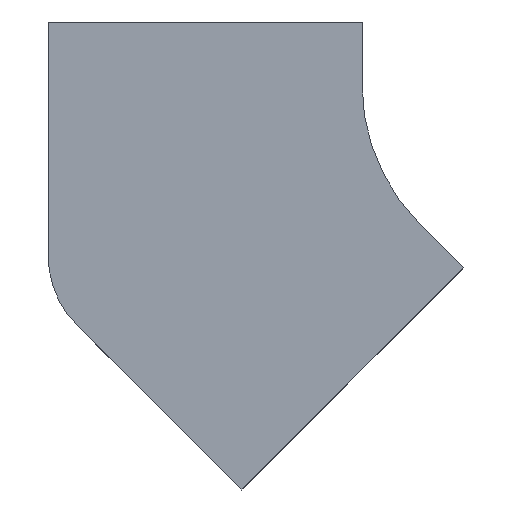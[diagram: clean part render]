
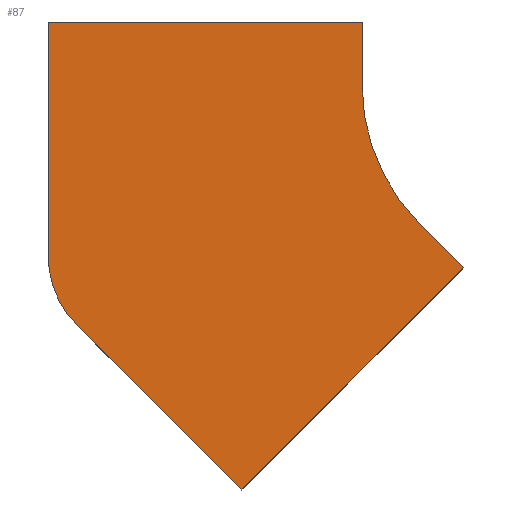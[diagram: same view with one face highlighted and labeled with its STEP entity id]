
A CAD part, front view. The second image highlights one B-rep face of the part: STEP entity #87.
In plain terms, the highlighted planar face has unit normal (0, -1, 0).
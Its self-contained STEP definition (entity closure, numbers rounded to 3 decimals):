
#3 = ORIENTED_EDGE ( 'NONE', *, *, #327, .F. ) ;
#14 = CIRCLE ( 'NONE', #206, 125. ) ;
#21 = VECTOR ( 'NONE', #1268, 1000. ) ;
#87 = ADVANCED_FACE ( 'NONE', ( #1157 ), #1180, .T. ) ;
#135 = LINE ( 'NONE', #1525, #1447 ) ;
#200 = CARTESIAN_POINT ( 'NONE',  ( -125., 0., 40. ) ) ;
#206 = AXIS2_PLACEMENT_3D ( 'NONE', #1585, #565, #1577 ) ;
#219 = CARTESIAN_POINT ( 'NONE',  ( -125., 0., 40. ) ) ;
#225 = AXIS2_PLACEMENT_3D ( 'NONE', #268, #511, #923 ) ;
#260 = VECTOR ( 'NONE', #436, 1000. ) ;
#264 = CARTESIAN_POINT ( 'NONE',  ( -325., 0., 40. ) ) ;
#268 = CARTESIAN_POINT ( 'NONE',  ( 0., 0., 0. ) ) ;
#304 = CARTESIAN_POINT ( 'NONE',  ( -60.104, 0., -116.673 ) ) ;
#318 = DIRECTION ( 'NONE',  ( -0.707, 0., -0.707 ) ) ;
#327 = EDGE_CURVE ( 'NONE', #631, #1071, #1112, .T. ) ;
#330 = VERTEX_POINT ( 'NONE', #264 ) ;
#351 = DIRECTION ( 'NONE',  ( 0., 0., -1. ) ) ;
#380 = ORIENTED_EDGE ( 'NONE', *, *, #1490, .F. ) ;
#386 = CARTESIAN_POINT ( 'NONE',  ( -88.388, 0., -88.388 ) ) ;
#389 = EDGE_LOOP ( 'NONE', ( #604, #1182, #3, #905, #1174, #1600, #1234, #380 ) ) ;
#391 = DIRECTION ( 'NONE',  ( 0., 0., 1. ) ) ;
#436 = DIRECTION ( 'NONE',  ( 1., 0., 0. ) ) ;
#479 = VECTOR ( 'NONE', #318, 1000. ) ;
#508 = DIRECTION ( 'NONE',  ( 0., 1., 0. ) ) ;
#511 = DIRECTION ( 'NONE',  ( 0., -1., 0. ) ) ;
#565 = DIRECTION ( 'NONE',  ( 0., -1., 0. ) ) ;
#590 = VECTOR ( 'NONE', #1090, 1000. ) ;
#596 = LINE ( 'NONE', #859, #21 ) ;
#604 = ORIENTED_EDGE ( 'NONE', *, *, #1582, .F. ) ;
#631 = VERTEX_POINT ( 'NONE', #1196 ) ;
#698 = CARTESIAN_POINT ( 'NONE',  ( -201.525, 0., -258.094 ) ) ;
#713 = EDGE_CURVE ( 'NONE', #1226, #1380, #1338, .T. ) ;
#726 = LINE ( 'NONE', #1593, #260 ) ;
#733 = AXIS2_PLACEMENT_3D ( 'NONE', #1276, #508, #391 ) ;
#750 = DIRECTION ( 'NONE',  ( 0., 0., 1. ) ) ;
#846 = EDGE_CURVE ( 'NONE', #1553, #631, #596, .T. ) ;
#859 = CARTESIAN_POINT ( 'NONE',  ( -201.525, 0., -258.094 ) ) ;
#905 = ORIENTED_EDGE ( 'NONE', *, *, #846, .F. ) ;
#913 = EDGE_CURVE ( 'NONE', #1380, #1553, #917, .T. ) ;
#917 = LINE ( 'NONE', #304, #479 ) ;
#923 = DIRECTION ( 'NONE',  ( 0., 0., -1. ) ) ;
#956 = CARTESIAN_POINT ( 'NONE',  ( -325., 0., -108.731 ) ) ;
#1034 = VECTOR ( 'NONE', #351, 1000. ) ;
#1071 = VERTEX_POINT ( 'NONE', #956 ) ;
#1090 = DIRECTION ( 'NONE',  ( 0.707, 0., -0.707 ) ) ;
#1112 = CIRCLE ( 'NONE', #733, 62.5 ) ;
#1119 = VERTEX_POINT ( 'NONE', #219 ) ;
#1157 = FACE_OUTER_BOUND ( 'NONE', #389, .T. ) ;
#1169 = CARTESIAN_POINT ( 'NONE',  ( -125., 0., 0. ) ) ;
#1174 = ORIENTED_EDGE ( 'NONE', *, *, #913, .F. ) ;
#1180 = PLANE ( 'NONE',  #225 ) ;
#1182 = ORIENTED_EDGE ( 'NONE', *, *, #1275, .F. ) ;
#1196 = CARTESIAN_POINT ( 'NONE',  ( -306.694, 0., -152.925 ) ) ;
#1220 = LINE ( 'NONE', #200, #1034 ) ;
#1226 = VERTEX_POINT ( 'NONE', #386 ) ;
#1234 = ORIENTED_EDGE ( 'NONE', *, *, #1300, .F. ) ;
#1268 = DIRECTION ( 'NONE',  ( -0.707, 0., 0.707 ) ) ;
#1275 = EDGE_CURVE ( 'NONE', #1071, #330, #135, .T. ) ;
#1276 = CARTESIAN_POINT ( 'NONE',  ( -262.5, 0., -108.731 ) ) ;
#1300 = EDGE_CURVE ( 'NONE', #1346, #1226, #14, .T. ) ;
#1338 = LINE ( 'NONE', #1471, #590 ) ;
#1346 = VERTEX_POINT ( 'NONE', #1169 ) ;
#1380 = VERTEX_POINT ( 'NONE', #1426 ) ;
#1426 = CARTESIAN_POINT ( 'NONE',  ( -60.104, 0., -116.673 ) ) ;
#1447 = VECTOR ( 'NONE', #750, 1000. ) ;
#1471 = CARTESIAN_POINT ( 'NONE',  ( -88.388, 0., -88.388 ) ) ;
#1490 = EDGE_CURVE ( 'NONE', #1119, #1346, #1220, .T. ) ;
#1525 = CARTESIAN_POINT ( 'NONE',  ( -325., 0., -108.731 ) ) ;
#1553 = VERTEX_POINT ( 'NONE', #698 ) ;
#1577 = DIRECTION ( 'NONE',  ( 0., 0., -1. ) ) ;
#1582 = EDGE_CURVE ( 'NONE', #330, #1119, #726, .T. ) ;
#1585 = CARTESIAN_POINT ( 'NONE',  ( 0., 0., 0. ) ) ;
#1593 = CARTESIAN_POINT ( 'NONE',  ( -325., 0., 40. ) ) ;
#1600 = ORIENTED_EDGE ( 'NONE', *, *, #713, .F. ) ;
